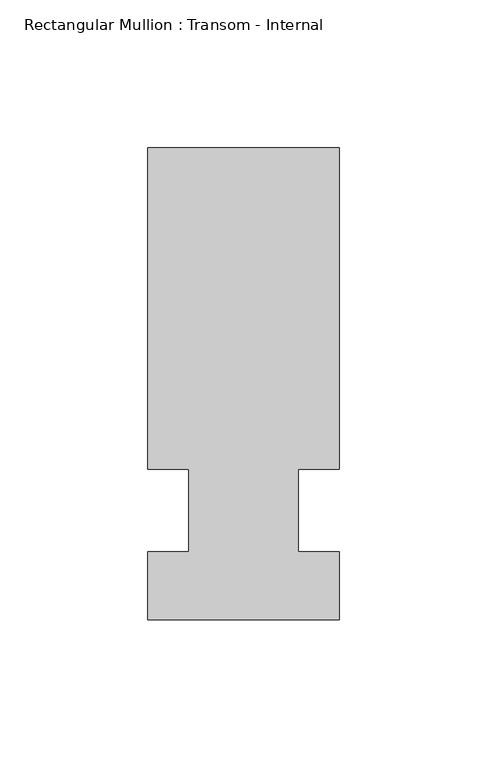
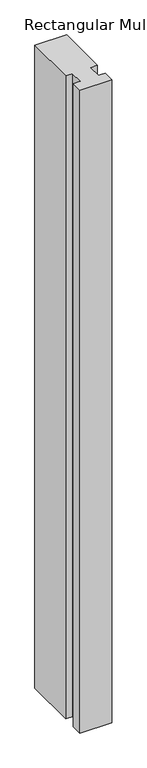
"""IFC4 building model written with IfcOpenShell, lengths in millimetres: member geometry, Rectangular Mullion : Transom - Internal."""

from ifc_helpers import new_model, si_unit, frame, origin, place, context, project, spatial, polyline, outline, extrude, source, transform, mapped, element, save


def rectangular_mullion_transom_internal_ea29bc59(model_context):
    return source(origin(), model_context, "Body", "SweptSolid", [
        extrude(outline(polyline([(-32.5, -14.0), (-18.5, -14.0), (-18.5, 14.0), (-32.5, 14.0), (-32.5, 123.0), (32.5, 123.0), (32.5, 14.0), (18.5, 14.0), (18.5, -14.0), (32.5, -14.0), (32.5, -37.0307322), (-32.5, -37.0307322), (-32.5, -14.0)])), frame((0.0, 0.0, -1394.5), z_axis=(0.0, 0.0, 1.0), x_axis=(1.0, 0.0, 0.0)), (0.0, 0.0, 1.0), 1394.5),
    ])


if __name__ == "__main__":
    model = new_model("IFC4")
    model_context = context("Model", 3, world=origin())
    ifc_project = project(units=[si_unit("LENGTHUNIT", "METRE", prefix="MILLI")], contexts=[model_context])
    site = spatial("IfcSite", under=ifc_project)
    building = spatial("IfcBuilding", under=site)
    placement = place(None, origin())
    rectangular_mullion_transom_internal_shape = rectangular_mullion_transom_internal_ea29bc59(model_context)
    element("IfcMember", 1, ObjectType="Rectangular Mullion : Transom - Internal", at=placement, inside=building, context=model_context, shape_type="MappedRepresentation", body=[
        mapped(rectangular_mullion_transom_internal_shape, transform((0.0, 0.0, 0.0), x_axis=(1.0, 0.0, 0.0), y_axis=(0.0, 1.0, 0.0), z_axis=(0.0, 0.0, 1.0))),
    ])
    save(model, "model.ifc")
